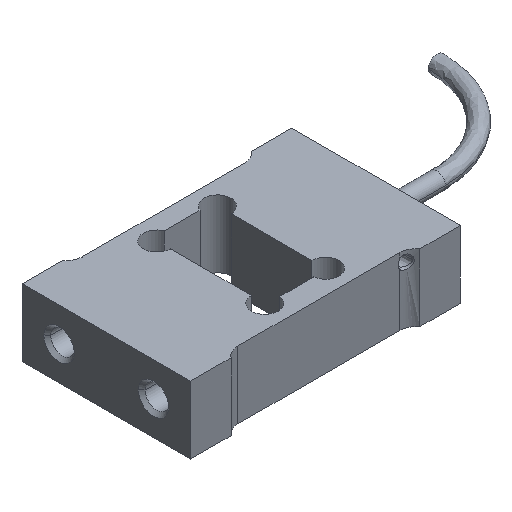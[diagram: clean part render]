
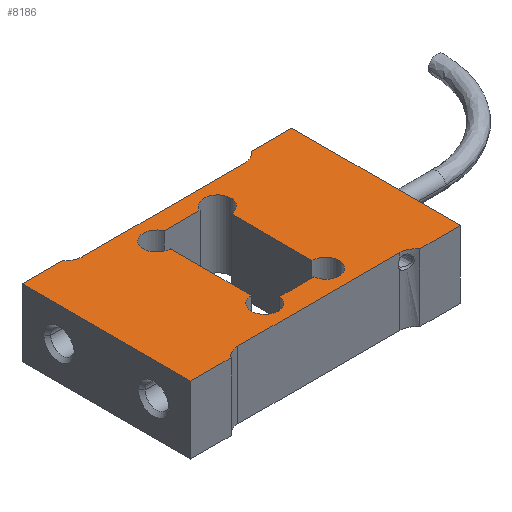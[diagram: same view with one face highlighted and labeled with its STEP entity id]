
A CAD part, isometric view. The second image highlights one B-rep face of the part: STEP entity #8186.
In plain terms, the highlighted free-form (B-spline) face has degree [1, 1] with [2, 2] control points.
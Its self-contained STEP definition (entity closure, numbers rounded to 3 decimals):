
#1444=CARTESIAN_POINT('',(67.579,-16.178,4.988));
#1445=DIRECTION('',(0.,0.,-1.));
#1446=DIRECTION('',(0.,1.,0.));
#1447=AXIS2_PLACEMENT_3D('',#1444,#1445,#1446);
#1458=DIRECTION('',(1.,0.,0.));
#1459=VECTOR('',#1458,12.);
#1460=CARTESIAN_POINT('',(71.579,-13.178,4.988));
#1461=LINE('',#1460,#1459);
#1462=DIRECTION('',(1.,0.,0.));
#1463=VECTOR('',#1462,48.);
#1464=CARTESIAN_POINT('',(19.579,-11.178,4.988));
#1465=LINE('',#1464,#1463);
#1466=DIRECTION('',(1.,0.,0.));
#1467=VECTOR('',#1466,12.);
#1468=CARTESIAN_POINT('',(3.579,-13.178,4.988));
#1469=LINE('',#1468,#1467);
#1470=DIRECTION('',(0.,-1.,0.));
#1471=VECTOR('',#1470,50.);
#1472=CARTESIAN_POINT('',(3.579,36.822,4.988));
#1473=LINE('',#1472,#1471);
#1474=DIRECTION('',(-1.,0.,0.));
#1475=VECTOR('',#1474,12.);
#1476=CARTESIAN_POINT('',(15.579,36.822,4.988));
#1477=LINE('',#1476,#1475);
#1478=DIRECTION('',(1.,0.,0.));
#1479=VECTOR('',#1478,48.);
#1480=CARTESIAN_POINT('',(19.579,34.822,4.988));
#1481=LINE('',#1480,#1479);
#1482=DIRECTION('',(-1.,0.,0.));
#1483=VECTOR('',#1482,12.);
#1484=CARTESIAN_POINT('',(83.579,36.822,4.988));
#1485=LINE('',#1484,#1483);
#1486=DIRECTION('',(0.,1.,0.));
#1487=VECTOR('',#1486,50.);
#1488=CARTESIAN_POINT('',(83.579,-13.178,4.988));
#1489=LINE('',#1488,#1487);
#1490=DIRECTION('',(0.,-1.,0.));
#1491=VECTOR('',#1490,24.);
#1492=CARTESIAN_POINT('',(34.579,23.822,4.988));
#1493=LINE('',#1492,#1491);
#1494=DIRECTION('',(1.,0.,0.));
#1495=VECTOR('',#1494,10.063);
#1496=CARTESIAN_POINT('',(38.547,-4.678,4.988));
#1497=LINE('',#1496,#1495);
#1498=DIRECTION('',(0.,1.,0.));
#1499=VECTOR('',#1498,24.);
#1500=CARTESIAN_POINT('',(52.579,-0.178,
4.988));
#1501=LINE('',#1500,#1499);
#1502=DIRECTION('',(-1.,0.,0.));
#1503=VECTOR('',#1502,10.584);
#1504=CARTESIAN_POINT('',(48.871,29.322,4.988));
#1505=LINE('',#1504,#1503);
#1815=CARTESIAN_POINT('',(67.579,39.822,4.988));
#1816=DIRECTION('',(0.,0.,-1.));
#1817=DIRECTION('',(0.8,-0.6,0.));
#1818=AXIS2_PLACEMENT_3D('',#1815,#1816,#1817);
#1945=CARTESIAN_POINT('',(19.579,39.822,4.988));
#1946=DIRECTION('',(0.,0.,-1.));
#1947=DIRECTION('',(0.,-1.,0.));
#1948=AXIS2_PLACEMENT_3D('',#1945,#1946,#1947);
#2184=CARTESIAN_POINT('',(19.579,-16.178,4.988));
#2185=DIRECTION('',(0.,0.,-1.));
#2186=DIRECTION('',(-0.8,0.6,0.));
#2187=AXIS2_PLACEMENT_3D('',#2184,#2185,#2186);
#3396=CARTESIAN_POINT('',(34.579,27.822,4.988));
#3397=DIRECTION('',(0.,0.,-1.));
#3398=DIRECTION('',(0.,-1.,0.));
#3399=AXIS2_PLACEMENT_3D('',#3396,#3397,#3398);
#3419=CARTESIAN_POINT('',(52.579,27.822,4.988));
#3420=DIRECTION('',(0.,0.,-1.));
#3421=DIRECTION('',(-0.927,0.375,0.));
#3422=AXIS2_PLACEMENT_3D('',#3419,#3420,#3421);
#3437=CARTESIAN_POINT('',(52.579,-4.178,4.988));
#3438=DIRECTION('',(0.,0.,-1.));
#3439=DIRECTION('',(0.,1.,0.));
#3440=AXIS2_PLACEMENT_3D('',#3437,#3438,#3439);
#3450=CARTESIAN_POINT('',(34.579,-4.178,4.988));
#3451=DIRECTION('',(0.,0.,-1.));
#3452=DIRECTION('',(0.992,-0.125,0.));
#3453=AXIS2_PLACEMENT_3D('',#3450,#3451,#3452);
#5693=CARTESIAN_POINT('',(3.579,36.822,4.988));
#5694=CARTESIAN_POINT('',(3.579,-13.178,4.988));
#5695=VERTEX_POINT('',#5693);
#5696=VERTEX_POINT('',#5694);
#5697=CARTESIAN_POINT('',(83.579,-13.178,4.988));
#5698=CARTESIAN_POINT('',(83.579,36.822,4.988));
#5699=VERTEX_POINT('',#5697);
#5700=VERTEX_POINT('',#5698);
#5725=CARTESIAN_POINT('',(19.579,34.822,4.988));
#5727=VERTEX_POINT('',#5725);
#5729=CARTESIAN_POINT('',(15.579,36.822,4.988));
#5731=VERTEX_POINT('',#5729);
#5733=CARTESIAN_POINT('',(71.579,36.822,4.988));
#5735=VERTEX_POINT('',#5733);
#5737=CARTESIAN_POINT('',(67.579,34.822,4.988));
#5738=VERTEX_POINT('',#5737);
#5742=CARTESIAN_POINT('',(19.579,-11.178,4.988));
#5744=VERTEX_POINT('',#5742);
#5746=CARTESIAN_POINT('',(15.579,-13.178,4.988));
#5748=VERTEX_POINT('',#5746);
#5750=CARTESIAN_POINT('',(71.579,-13.178,4.988));
#5752=VERTEX_POINT('',#5750);
#5755=CARTESIAN_POINT('',(67.579,-11.178,4.988));
#5756=VERTEX_POINT('',#5755);
#5856=CARTESIAN_POINT('',(52.579,-0.178,
4.988));
#5858=VERTEX_POINT('',#5856);
#5860=CARTESIAN_POINT('',(48.61,-4.678,4.988));
#5862=VERTEX_POINT('',#5860);
#5864=CARTESIAN_POINT('',(52.579,23.822,4.988));
#5866=VERTEX_POINT('',#5864);
#5868=CARTESIAN_POINT('',(48.871,29.322,4.988));
#5870=VERTEX_POINT('',#5868);
#5873=CARTESIAN_POINT('',(34.579,-0.178,
4.988));
#5875=VERTEX_POINT('',#5873);
#5877=CARTESIAN_POINT('',(38.547,-4.678,4.988));
#5879=VERTEX_POINT('',#5877);
#5881=CARTESIAN_POINT('',(38.287,29.322,4.988));
#5883=VERTEX_POINT('',#5881);
#5885=CARTESIAN_POINT('',(34.579,23.822,4.988));
#5887=VERTEX_POINT('',#5885);
#8139=CARTESIAN_POINT('',(1.979,-14.178,4.988));
#8140=CARTESIAN_POINT('',(1.979,37.822,4.988));
#8141=CARTESIAN_POINT('',(85.179,-14.178,4.988));
#8142=CARTESIAN_POINT('',(85.179,37.822,4.988));
#8143=B_SPLINE_SURFACE_WITH_KNOTS('',1,1,((#8139,#8140),(#8141,#8142)),
.UNSPECIFIED.,.F.,.F.,.F.,(2,2),(2,2),(-41.6,41.6),(-26.,26.),
.UNSPECIFIED.);
#8145=ORIENTED_EDGE('',*,*,#8144,.F.);
#8146=ORIENTED_EDGE('',*,*,#8052,.F.);
#8147=ORIENTED_EDGE('',*,*,#7851,.F.);
#8149=ORIENTED_EDGE('',*,*,#8148,.F.);
#8151=ORIENTED_EDGE('',*,*,#8150,.F.);
#8153=ORIENTED_EDGE('',*,*,#8152,.F.);
#8155=ORIENTED_EDGE('',*,*,#8154,.F.);
#8157=ORIENTED_EDGE('',*,*,#8156,.F.);
#8159=ORIENTED_EDGE('',*,*,#8158,.T.);
#8161=ORIENTED_EDGE('',*,*,#8160,.F.);
#8163=ORIENTED_EDGE('',*,*,#8162,.F.);
#8165=ORIENTED_EDGE('',*,*,#8164,.F.);
#8166=EDGE_LOOP('',(#8145,#8146,#8147,#8149,#8151,#8153,#8155,#8157,#8159,#8161,
#8163,#8165));
#8167=FACE_OUTER_BOUND('',#8166,.F.);
#8169=ORIENTED_EDGE('',*,*,#8168,.F.);
#8171=ORIENTED_EDGE('',*,*,#8170,.T.);
#8173=ORIENTED_EDGE('',*,*,#8172,.F.);
#8175=ORIENTED_EDGE('',*,*,#8174,.T.);
#8177=ORIENTED_EDGE('',*,*,#8176,.F.);
#8179=ORIENTED_EDGE('',*,*,#8178,.T.);
#8181=ORIENTED_EDGE('',*,*,#8180,.F.);
#8183=ORIENTED_EDGE('',*,*,#8182,.T.);
#8184=EDGE_LOOP('',(#8169,#8171,#8173,#8175,#8177,#8179,#8181,#8183));
#8185=FACE_BOUND('',#8184,.F.);
#8186=ADVANCED_FACE('',(#8167,#8185),#8143,.T.);
#1448=CIRCLE('',#1447,5.);
#1819=CIRCLE('',#1818,5.);
#1949=CIRCLE('',#1948,5.);
#2188=CIRCLE('',#2187,5.);
#3400=CIRCLE('',#3399,4.);
#3423=CIRCLE('',#3422,4.);
#3441=CIRCLE('',#3440,4.);
#3454=CIRCLE('',#3453,4.);
#7851=EDGE_CURVE('',#5744,#5756,#1465,.T.);
#8052=EDGE_CURVE('',#5756,#5752,#1448,.T.);
#8144=EDGE_CURVE('',#5752,#5699,#1461,.T.);
#8148=EDGE_CURVE('',#5748,#5744,#2188,.T.);
#8150=EDGE_CURVE('',#5696,#5748,#1469,.T.);
#8152=EDGE_CURVE('',#5695,#5696,#1473,.T.);
#8154=EDGE_CURVE('',#5731,#5695,#1477,.T.);
#8156=EDGE_CURVE('',#5727,#5731,#1949,.T.);
#8158=EDGE_CURVE('',#5727,#5738,#1481,.T.);
#8160=EDGE_CURVE('',#5735,#5738,#1819,.T.);
#8162=EDGE_CURVE('',#5700,#5735,#1485,.T.);
#8164=EDGE_CURVE('',#5699,#5700,#1489,.T.);
#8168=EDGE_CURVE('',#5887,#5883,#3400,.T.);
#8170=EDGE_CURVE('',#5887,#5875,#1493,.T.);
#8172=EDGE_CURVE('',#5879,#5875,#3454,.T.);
#8174=EDGE_CURVE('',#5879,#5862,#1497,.T.);
#8176=EDGE_CURVE('',#5858,#5862,#3441,.T.);
#8178=EDGE_CURVE('',#5858,#5866,#1501,.T.);
#8180=EDGE_CURVE('',#5870,#5866,#3423,.T.);
#8182=EDGE_CURVE('',#5870,#5883,#1505,.T.);
